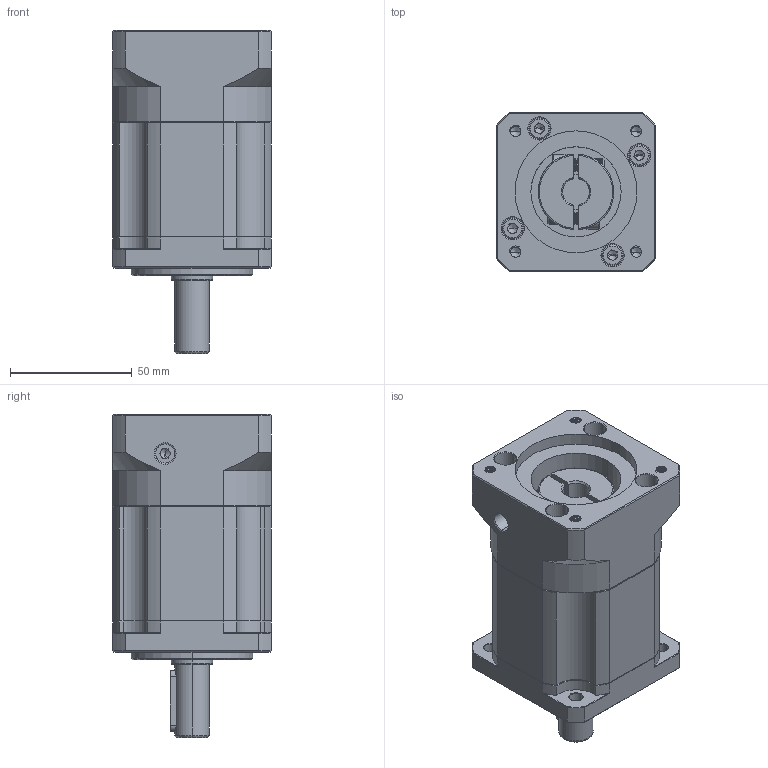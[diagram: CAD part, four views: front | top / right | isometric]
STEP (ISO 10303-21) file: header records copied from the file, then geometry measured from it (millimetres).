
FILE_DESCRIPTION (( 'STEP AP214' ), '1' );
FILE_NAME ('ZB060-D14-L2-P2-11-50-70-M5.step', '2023-08-16T07:00:53', ( '' ), ( '' ), 'SwSTEP 2.0', 'SolidWorks 2016', '' );
FILE_SCHEMA (( 'AUTOMOTIVE_DESIGN' ));
Length unit declared in the file: millimetre
Products named in the file (1): ZB060-D14-L2-P2-11-50-70-M5
Bounding box: 65 x 65 x 132.5 mm (x, y, z)
Volume: 329544.5 mm3; surface area: 58833.2 mm2
Topology: 6 solids, 6 shells, 2164 faces, 5824 edges, 3748 vertices
Faces by surface type: plane 1059, bspline 397, cylinder 393, cone 279, torus 36
Entity records: 117590 total; most frequent: CARTESIAN_POINT 42649, ORIENTED_EDGE 11588, DIRECTION 9130, EDGE_CURVE 5794, VERTEX_POINT 3748, LINE 3656, VECTOR 3656, AXIS2_PLACEMENT_3D 2737
